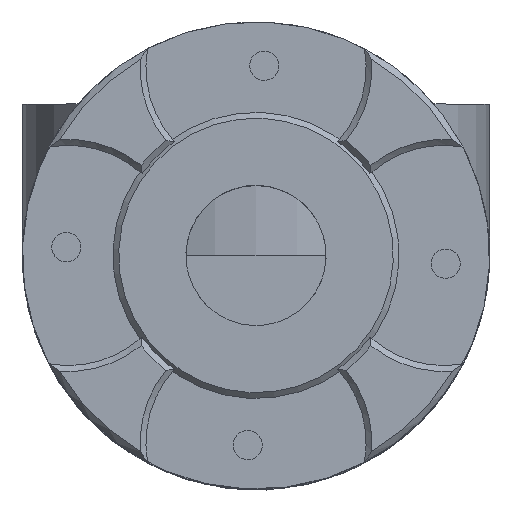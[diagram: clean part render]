
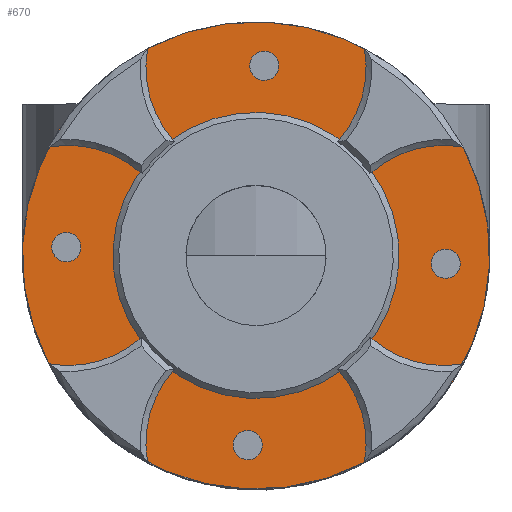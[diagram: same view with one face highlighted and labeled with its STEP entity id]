
A CAD part, top view. The second image highlights one B-rep face of the part: STEP entity #670.
In plain terms, the highlighted planar face has unit normal (0, 0, 1) as drawn and (0, -1, 0) by its records, which use the part's own axes.
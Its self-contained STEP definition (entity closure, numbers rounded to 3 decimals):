
#670 = ADVANCED_FACE( '', ( #1325, #1326, #1327, #1328, #1329, #1330, #1331, #1332, #1333, #1334 ), #1335, .F. );
#1325 = FACE_BOUND( '', #1905, .T. );
#1326 = FACE_BOUND( '', #1906, .T. );
#1327 = FACE_BOUND( '', #1907, .T. );
#1328 = FACE_BOUND( '', #1908, .T. );
#1329 = FACE_BOUND( '', #1909, .T. );
#1330 = FACE_BOUND( '', #1910, .T. );
#1331 = FACE_BOUND( '', #1911, .T. );
#1332 = FACE_BOUND( '', #1912, .T. );
#1333 = FACE_BOUND( '', #1913, .T. );
#1334 = FACE_OUTER_BOUND( '', #1914, .T. );
#1335 = PLANE( '', #1915 );
#1905 = EDGE_LOOP( '', ( #3396 ) );
#1906 = EDGE_LOOP( '', ( #3397 ) );
#1907 = EDGE_LOOP( '', ( #3398 ) );
#1908 = EDGE_LOOP( '', ( #3399 ) );
#1909 = EDGE_LOOP( '', ( #3400 ) );
#1910 = EDGE_LOOP( '', ( #3401 ) );
#1911 = EDGE_LOOP( '', ( #3402 ) );
#1912 = EDGE_LOOP( '', ( #3403 ) );
#1913 = EDGE_LOOP( '', ( #3404 ) );
#1914 = EDGE_LOOP( '', ( #3405 ) );
#1915 = AXIS2_PLACEMENT_3D( '', #3406, #3407, #3408 );
#3396 = ORIENTED_EDGE( '', *, *, #3997, .F. );
#3397 = ORIENTED_EDGE( '', *, *, #3998, .F. );
#3398 = ORIENTED_EDGE( '', *, *, #3999, .F. );
#3399 = ORIENTED_EDGE( '', *, *, #4000, .F. );
#3400 = ORIENTED_EDGE( '', *, *, #4001, .F. );
#3401 = ORIENTED_EDGE( '', *, *, #4002, .F. );
#3402 = ORIENTED_EDGE( '', *, *, #4003, .F. );
#3403 = ORIENTED_EDGE( '', *, *, #4004, .F. );
#3404 = ORIENTED_EDGE( '', *, *, #4005, .F. );
#3405 = ORIENTED_EDGE( '', *, *, #3994, .T. );
#3406 = CARTESIAN_POINT( '', ( 0., 0., 40. ) );
#3407 = DIRECTION( '', ( 0., 1., 0. ) );
#3408 = DIRECTION( '', ( 0., 0., 1. ) );
#3994 = EDGE_CURVE( '', #4735, #4735, #4736, .T. );
#3997 = EDGE_CURVE( '', #4741, #4741, #4742, .T. );
#3998 = EDGE_CURVE( '', #4743, #4743, #4744, .T. );
#3999 = EDGE_CURVE( '', #4745, #4745, #4746, .T. );
#4000 = EDGE_CURVE( '', #4747, #4747, #4748, .T. );
#4001 = EDGE_CURVE( '', #4749, #4749, #4750, .T. );
#4002 = EDGE_CURVE( '', #4751, #4751, #4752, .T. );
#4003 = EDGE_CURVE( '', #4753, #4753, #4754, .T. );
#4004 = EDGE_CURVE( '', #4755, #4755, #4756, .T. );
#4005 = EDGE_CURVE( '', #4757, #4757, #4758, .T. );
#4735 = VERTEX_POINT( '', #5873 );
#4736 = CIRCLE( '', #5874, 40. );
#4741 = VERTEX_POINT( '', #5879 );
#4742 = CIRCLE( '', #5880, 2.5 );
#4743 = VERTEX_POINT( '', #5881 );
#4744 = CIRCLE( '', #5882, 2.5 );
#4745 = VERTEX_POINT( '', #5883 );
#4746 = CIRCLE( '', #5884, 2.5 );
#4747 = VERTEX_POINT( '', #5885 );
#4748 = CIRCLE( '', #5886, 2.5 );
#4749 = VERTEX_POINT( '', #5887 );
#4750 = CIRCLE( '', #5888, 2.5 );
#4751 = VERTEX_POINT( '', #5889 );
#4752 = CIRCLE( '', #5890, 2.5 );
#4753 = VERTEX_POINT( '', #5891 );
#4754 = CIRCLE( '', #5892, 2.5 );
#4755 = VERTEX_POINT( '', #5893 );
#4756 = CIRCLE( '', #5894, 2.5 );
#4757 = VERTEX_POINT( '', #5895 );
#4758 = CIRCLE( '', #5896, 24.5 );
#5873 = CARTESIAN_POINT( '', ( 0., 0., -40. ) );
#5874 = AXIS2_PLACEMENT_3D( '', #6702, #6703, #6704 );
#5879 = CARTESIAN_POINT( '', ( -25.054, 0., 23.202 ) );
#5880 = AXIS2_PLACEMENT_3D( '', #6711, #6712, #6713 );
#5881 = CARTESIAN_POINT( '', ( -32.5, 0., 2.5 ) );
#5882 = AXIS2_PLACEMENT_3D( '', #6714, #6715, #6716 );
#5883 = CARTESIAN_POINT( '', ( -23.202, 0., -25.054 ) );
#5884 = AXIS2_PLACEMENT_3D( '', #6717, #6718, #6719 );
#5885 = CARTESIAN_POINT( '', ( -2.5, 0., -32.5 ) );
#5886 = AXIS2_PLACEMENT_3D( '', #6720, #6721, #6722 );
#5887 = CARTESIAN_POINT( '', ( 25.054, 0., -23.202 ) );
#5888 = AXIS2_PLACEMENT_3D( '', #6723, #6724, #6725 );
#5889 = CARTESIAN_POINT( '', ( 32.5, 0., -2.5 ) );
#5890 = AXIS2_PLACEMENT_3D( '', #6726, #6727, #6728 );
#5891 = CARTESIAN_POINT( '', ( 23.202, 0., 25.054 ) );
#5892 = AXIS2_PLACEMENT_3D( '', #6729, #6730, #6731 );
#5893 = CARTESIAN_POINT( '', ( 2.5, 0., 32.5 ) );
#5894 = AXIS2_PLACEMENT_3D( '', #6732, #6733, #6734 );
#5895 = CARTESIAN_POINT( '', ( 0., 0., -24.5 ) );
#5896 = AXIS2_PLACEMENT_3D( '', #6735, #6736, #6737 );
#6702 = CARTESIAN_POINT( '', ( 0., 0., 0. ) );
#6703 = DIRECTION( '', ( 0., -1., 0. ) );
#6704 = DIRECTION( '', ( 0., 0., -1. ) );
#6711 = CARTESIAN_POINT( '', ( -25.054, 0., 20.702 ) );
#6712 = DIRECTION( '', ( 0., -1., 0. ) );
#6713 = DIRECTION( '', ( 0., 0., 1. ) );
#6714 = CARTESIAN_POINT( '', ( -32.5, 0., 0. ) );
#6715 = DIRECTION( '', ( 0., -1., 0. ) );
#6716 = DIRECTION( '', ( 0., 0., 1. ) );
#6717 = CARTESIAN_POINT( '', ( -20.702, 0., -25.054 ) );
#6718 = DIRECTION( '', ( 0., -1., 0. ) );
#6719 = DIRECTION( '', ( -1., 0., 0. ) );
#6720 = CARTESIAN_POINT( '', ( 0., 0., -32.5 ) );
#6721 = DIRECTION( '', ( 0., -1., 0. ) );
#6722 = DIRECTION( '', ( -1., 0., 0. ) );
#6723 = CARTESIAN_POINT( '', ( 25.054, 0., -20.702 ) );
#6724 = DIRECTION( '', ( 0., -1., 0. ) );
#6725 = DIRECTION( '', ( 0., 0., -1. ) );
#6726 = CARTESIAN_POINT( '', ( 32.5, 0., 0. ) );
#6727 = DIRECTION( '', ( 0., -1., 0. ) );
#6728 = DIRECTION( '', ( 0., 0., -1. ) );
#6729 = CARTESIAN_POINT( '', ( 20.702, 0., 25.054 ) );
#6730 = DIRECTION( '', ( 0., -1., 0. ) );
#6731 = DIRECTION( '', ( 1., 0., 0. ) );
#6732 = CARTESIAN_POINT( '', ( 0., 0., 32.5 ) );
#6733 = DIRECTION( '', ( 0., -1., 0. ) );
#6734 = DIRECTION( '', ( 1., 0., 0. ) );
#6735 = CARTESIAN_POINT( '', ( 0., 0., 0. ) );
#6736 = DIRECTION( '', ( 0., -1., 0. ) );
#6737 = DIRECTION( '', ( 0., 0., -1. ) );
